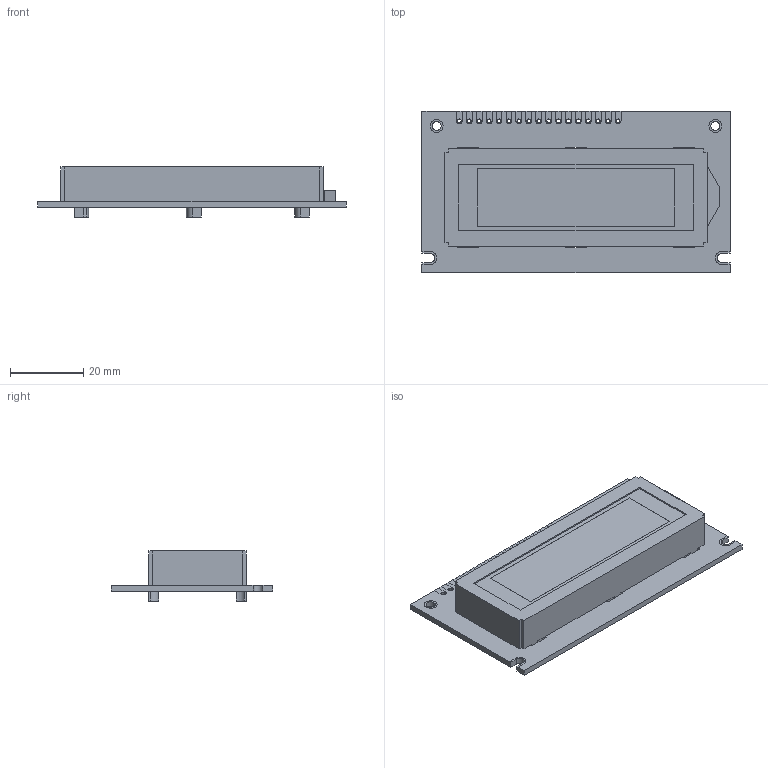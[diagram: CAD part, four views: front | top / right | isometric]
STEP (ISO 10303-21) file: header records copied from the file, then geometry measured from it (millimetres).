
FILE_DESCRIPTION (( 'STEP AP214' ), '1' );
FILE_NAME ('NHD-12232AZ.STEP', '2017-05-01T15:26:28', ( '' ), ( '' ), 'SwSTEP 2.0', 'SolidWorks 2015', '' );
FILE_SCHEMA (( 'AUTOMOTIVE_DESIGN' ));
Length unit declared in the file: millimetre
Products named in the file (1): NHD-12232AZ
Bounding box: 84 x 44 x 13.65 mm (x, y, z)
Volume: 23311.3 mm3; surface area: 10115.9 mm2
Topology: 1 solids, 1 shells, 343 faces, 983 edges, 644 vertices
Faces by surface type: plane 222, cylinder 107, bspline 14
Entity records: 12931 total; most frequent: CARTESIAN_POINT 2137, ORIENTED_EDGE 1966, DIRECTION 1835, EDGE_CURVE 983, LINE 735, VECTOR 735, VERTEX_POINT 644, AXIS2_PLACEMENT_3D 550
